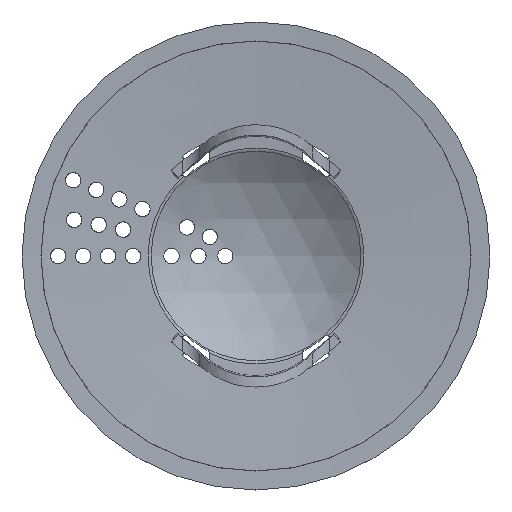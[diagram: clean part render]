
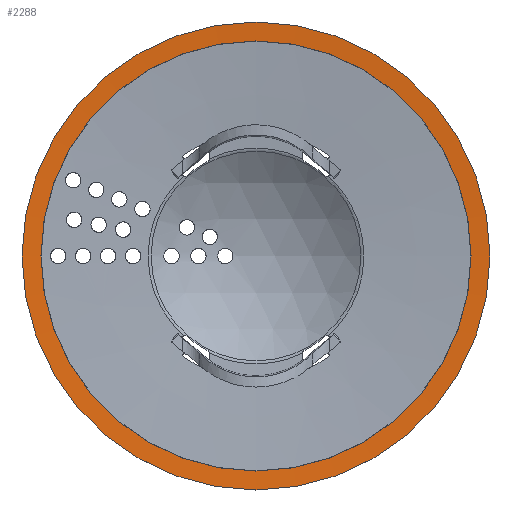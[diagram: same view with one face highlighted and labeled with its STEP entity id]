
A CAD part, top view. The second image highlights one B-rep face of the part: STEP entity #2288.
In plain terms, the highlighted conical face has half-angle 87 degrees and reference radius 55.944 mm.
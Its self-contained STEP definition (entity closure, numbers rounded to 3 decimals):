
#142=CIRCLE('',#2428,55.962);
#143=CIRCLE('',#2429,55.962);
#154=CIRCLE('',#2469,60.9);
#155=CIRCLE('',#2470,60.9);
#166=CONICAL_SURFACE('',#2468,55.944,1.518);
#248=FACE_OUTER_BOUND('',#379,.T.);
#379=EDGE_LOOP('',(#1963,#1964,#1965,#1966,#1967,#1968));
#467=LINE('',#6142,#544);
#544=VECTOR('',#2845,55.944);
#968=VERTEX_POINT('',#5771);
#969=VERTEX_POINT('',#5772);
#980=VERTEX_POINT('',#6141);
#981=VERTEX_POINT('',#6143);
#1275=EDGE_CURVE('',#968,#969,#142,.T.);
#1276=EDGE_CURVE('',#969,#968,#143,.T.);
#1325=EDGE_CURVE('',#968,#980,#467,.T.);
#1326=EDGE_CURVE('',#980,#981,#154,.T.);
#1327=EDGE_CURVE('',#981,#980,#155,.T.);
#1963=ORIENTED_EDGE('',*,*,#1275,.T.);
#1964=ORIENTED_EDGE('',*,*,#1276,.T.);
#1965=ORIENTED_EDGE('',*,*,#1325,.T.);
#1966=ORIENTED_EDGE('',*,*,#1326,.T.);
#1967=ORIENTED_EDGE('',*,*,#1327,.T.);
#1968=ORIENTED_EDGE('',*,*,#1325,.F.);
#2288=ADVANCED_FACE('',(#248),#166,.F.);
#2428=AXIS2_PLACEMENT_3D('',#5773,#2742,#2743);
#2429=AXIS2_PLACEMENT_3D('',#5774,#2744,#2745);
#2468=AXIS2_PLACEMENT_3D('',#6140,#2843,#2844);
#2469=AXIS2_PLACEMENT_3D('',#6144,#2846,#2847);
#2470=AXIS2_PLACEMENT_3D('',#6145,#2848,#2849);
#2742=DIRECTION('center_axis',(0.,0.,-1.));
#2743=DIRECTION('ref_axis',(0.,-1.,0.));
#2744=DIRECTION('center_axis',(0.,0.,-1.));
#2745=DIRECTION('ref_axis',(0.,-1.,0.));
#2843=DIRECTION('center_axis',(0.,0.,
1.));
#2844=DIRECTION('ref_axis',(-1.,0.,0.));
#2845=DIRECTION('',(0.999,0.,0.052));
#2846=DIRECTION('center_axis',(0.,0.,
1.));
#2847=DIRECTION('ref_axis',(0.,1.,0.));
#2848=DIRECTION('center_axis',(0.,0.,
1.));
#2849=DIRECTION('ref_axis',(0.,1.,0.));
#5771=CARTESIAN_POINT('',(55.962,-0.382,-0.259));
#5772=CARTESIAN_POINT('',(-55.962,-0.382,-0.259));
#5773=CARTESIAN_POINT('Origin',(0.,-0.382,-0.259));
#5774=CARTESIAN_POINT('Origin',(0.,-0.382,-0.259));
#6140=CARTESIAN_POINT('Origin',(0.,-0.382,-0.26));
#6141=CARTESIAN_POINT('',(60.9,-0.382,0.));
#6142=CARTESIAN_POINT('',(55.944,-0.382,-0.26));
#6143=CARTESIAN_POINT('',(-60.9,-0.382,0.));
#6144=CARTESIAN_POINT('Origin',(0.,-0.382,0.));
#6145=CARTESIAN_POINT('Origin',(0.,-0.382,0.));
